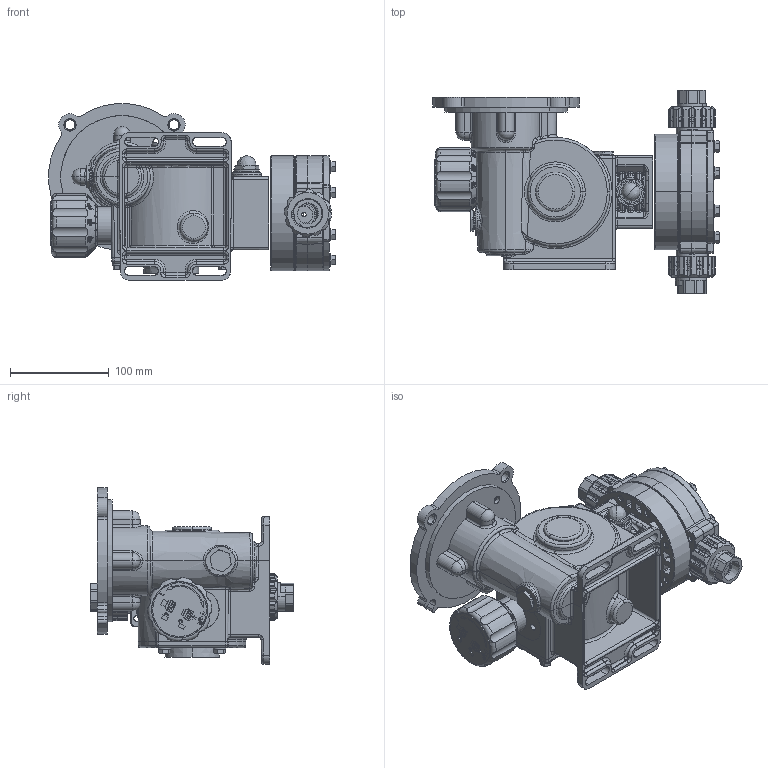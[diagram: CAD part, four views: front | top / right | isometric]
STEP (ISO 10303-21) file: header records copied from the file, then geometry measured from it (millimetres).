
FILE_DESCRIPTION (( 'STEP AP203' ), '1' );
FILE_NAME ('DM2DYFC.STEP', '2025-03-17T17:40:33', ( '' ), ( '' ), 'SwSTEP 2.0', 'SolidWorks 2023', '' );
FILE_SCHEMA (( 'CONFIG_CONTROL_DESIGN' ));
Products named in the file (1): DM2DYFC
Bounding box: 290.76 x 206.13 x 179.33 mm (x, y, z)
Surface area: 323298.2 mm2 (no closed solid volume)
Topology: 0 solids, 211 shells, 2087 faces, 11289 edges, 9245 vertices
Faces by surface type: plane 739, cylinder 656, cone 275, bspline 269, torus 91, sphere 57
Entity records: 146240 total; most frequent: CARTESIAN_POINT 66601, ORIENTED_EDGE 15301, DIRECTION 13787, EDGE_CURVE 11245, VERTEX_POINT 9238, VECTOR 5207, LINE 5207, AXIS2_PLACEMENT_3D 4290
